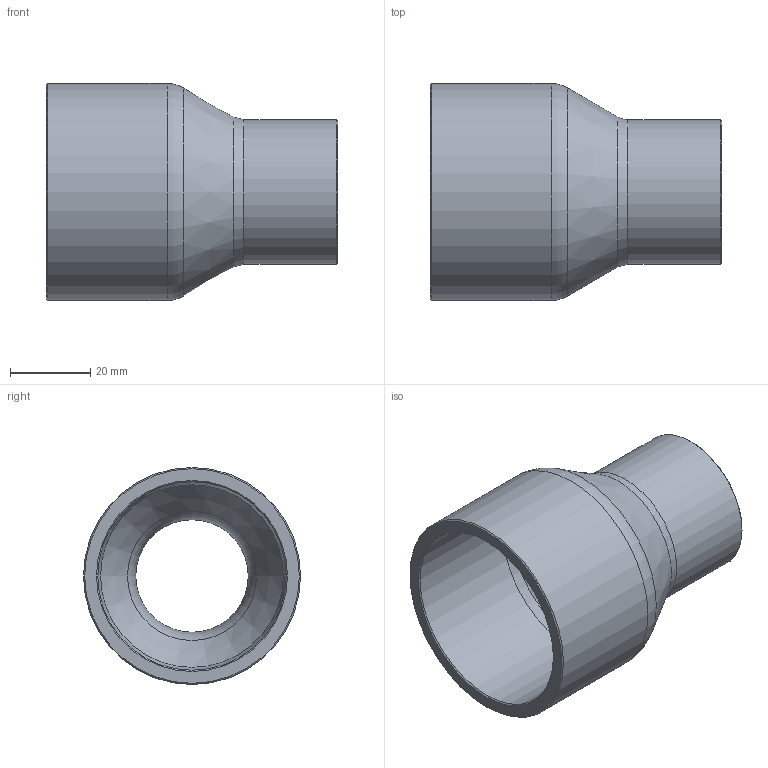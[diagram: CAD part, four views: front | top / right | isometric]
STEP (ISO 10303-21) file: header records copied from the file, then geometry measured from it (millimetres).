
FILE_DESCRIPTION((''),'2;1');
FILE_NAME('G:\SANHA-Ternat\Technik\Management\Bouwmaten + markeringen\z-maattekeningen 3D\29000s\29243218118_3d.stp','2017-08-04T08:17:24',('vdvijverd'),(''),'Autodesk Inventor 2009','Autodesk Inventor 2009','');
FILE_SCHEMA(('AUTOMOTIVE_DESIGN { 1 0 10303 214 1 1 1 1 }'));
Length unit declared in the file: millimetre
Products named in the file (1): 29243218118_3d
Bounding box: 72.4 x 53.97 x 53.97 mm (x, y, z)
Volume: 36555.5 mm3; surface area: 20573.1 mm2
Topology: 1 solids, 1 shells, 17 faces, 32 edges, 17 vertices
Faces by surface type: cone 6, cylinder 4, bspline 3, plane 2, torus 2
Full cylindrical faces by diameter (mm): 28.725 x1, 35.925 x1, 46.87 x1, 53.97 x1
Entity records: 494 total; most frequent: CARTESIAN_POINT 184, DIRECTION 64, ORIENTED_EDGE 34, EDGE_LOOP 34, AXIS2_PLACEMENT_3D 32, VERTEX_POINT 17, CIRCLE 17, EDGE_CURVE 17
